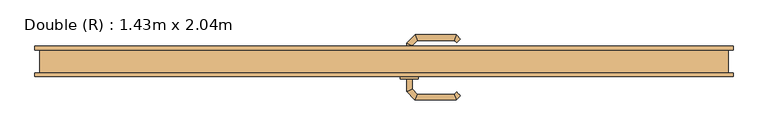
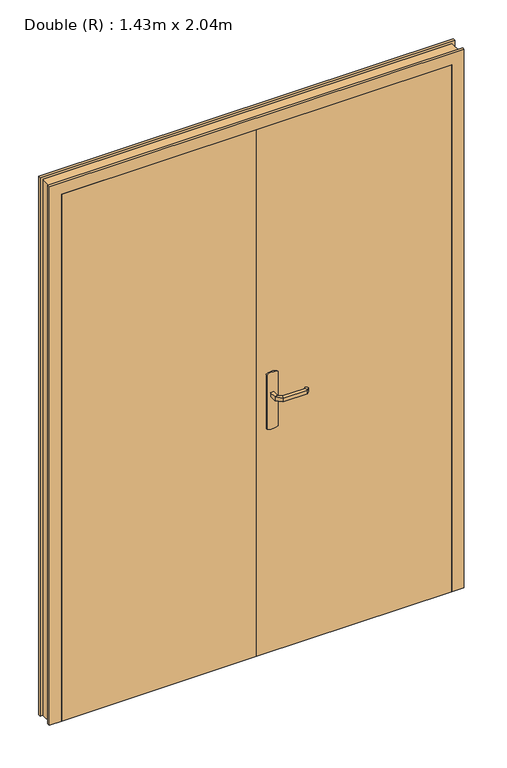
"""IFC4 building model written with IfcOpenShell, lengths in millimetres: door geometry, Double (R) : 1.43m x 2.04m."""

from ifc_helpers import new_model, si_unit, point, frame, frame_2d, origin, origin_with_axes, place, context, project, spatial, polyline, circle_curve, ellipse_curve, trimmed, segment, composite_curve, outline, extrude, faceted_brep, source, transform, mapped, element, save
from ifc_brep_helpers import plane_surface, cylinder_surface, advanced_brep


def double_r_1_43m_x_2_04m_cb4ce28d(model_context):
    return source(origin(), model_context, "Body", "SolidModel", [
        advanced_brep(
        [(61.0, 12.0, 993.0), (61.0, 12.0, 1007.0), (49.0, 12.0, 1007.0), (49.0, 12.0, 993.0), (61.0, 34.4852045, 993.0), (61.0, 34.4852045, 1007.0), (49.0, 39.4557673, 1007.0), (49.0, 39.4557673, 993.0), (72.4852814, 45.9704859, 993.0), (72.4852814, 45.9704859, 1007.0), (67.5147186, 57.9704859, 1007.0), (67.5147186, 57.9704859, 993.0), (152.5605023, 45.9704859, 993.0), (152.5605023, 45.9704859, 1007.0), (157.531065, 57.9704859, 1007.0), (157.531065, 57.9704859, 993.0), (157.8742108, 40.6567774, 993.0), (166.3594922, 49.1420588, 993.0), (166.3594922, 49.1420588, 1007.0), (157.8742108, 40.6567774, 1007.0)],
        [
            (0, 1),
            (1, 2, circle_curve(frame((55.0, 12.0, 986.9542278), z_axis=(0.0, -1.0, 0.0), x_axis=(-1.0, 0.0, 0.0)), 20.9244589)),
            (2, 3),
            (3, 0, circle_curve(frame((55.0, 12.0, 1013.0457722), z_axis=(0.0, -1.0, 0.0), x_axis=(-1.0, 0.0, 0.0)), 20.9244589)),
            (0, 4),
            (4, 5),
            (5, 1),
            (5, 6, ellipse_curve(frame((55.0, 36.9704859, 986.9542278), z_axis=(-0.38268343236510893, -0.9238795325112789, 0.0), x_axis=(0.9238795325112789, -0.3826834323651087, 0.0)), 22.6484711, 20.9244589)),
            (6, 2),
            (6, 7),
            (7, 3),
            (7, 4, ellipse_curve(frame((55.0, 36.9704859, 1013.0457722), z_axis=(-0.38268343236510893, -0.9238795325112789, 0.0), x_axis=(0.9238795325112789, -0.3826834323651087, 0.0)), 22.6484711, 20.9244589)),
            (4, 8),
            (8, 9),
            (9, 5),
            (9, 10, ellipse_curve(frame((70.0, 51.9704859, 986.9542278), z_axis=(-0.9238795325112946, -0.38268343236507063, 0.0), x_axis=(0.3826834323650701, -0.9238795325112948, 0.0)), 22.6484711, 20.9244589)),
            (10, 6),
            (10, 11),
            (11, 7),
            (11, 8, ellipse_curve(frame((70.0, 51.9704859, 1013.0457722), z_axis=(-0.9238795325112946, -0.38268343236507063, 0.0), x_axis=(0.3826834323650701, -0.9238795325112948, 0.0)), 22.6484711, 20.9244589)),
            (8, 12),
            (12, 13),
            (13, 9),
            (13, 14, ellipse_curve(frame((155.0457837, 51.9704859, 986.9542278), z_axis=(-0.9238795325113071, 0.38268343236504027, 0.0), x_axis=(-0.38268343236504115, -0.9238795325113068, 0.0)), 22.6484711, 20.9244589)),
            (14, 10),
            (14, 15),
            (15, 11),
            (15, 12, ellipse_curve(frame((155.0457837, 51.9704859, 1013.0457722), z_axis=(-0.9238795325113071, 0.38268343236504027, 0.0), x_axis=(-0.38268343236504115, -0.9238795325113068, 0.0)), 22.6484711, 20.9244589)),
            (16, 17, circle_curve(frame((162.1168515, 44.8994181, 1013.0457722), z_axis=(0.7071067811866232, -0.7071067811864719, 0.0), x_axis=(0.7071067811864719, 0.7071067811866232, 0.0)), 20.9244589)),
            (17, 18),
            (18, 19, circle_curve(frame((162.1168515, 44.8994181, 986.9542278), z_axis=(0.7071067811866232, -0.7071067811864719, 0.0), x_axis=(0.7071067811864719, 0.7071067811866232, 0.0)), 20.9244589)),
            (19, 16),
            (12, 16),
            (19, 13),
            (18, 14),
            (17, 15),
        ],
        [
            plane_surface(frame((45.7804555, 12.0, 1000.0), z_axis=(0.0, -1.0, 0.0), x_axis=(0.0, 0.0, 1.0))),
            plane_surface(frame((61.0, 12.0, 993.0), z_axis=(1.0, 0.0, 0.0), x_axis=(0.0, 1.0, 0.0))),
            cylinder_surface(frame((55.0, 12.0, 986.9542278), z_axis=(0.0, -1.0, 0.0), x_axis=(-1.0, 0.0, 0.0)), 20.9244589),
            plane_surface(frame((49.0, 12.0, 1007.0), z_axis=(-1.0, 0.0, 0.0), x_axis=(0.0, 1.0, 0.0))),
            cylinder_surface(frame((55.0, 12.0, 1013.0457722), z_axis=(0.0, -1.0, 0.0), x_axis=(-1.0, 0.0, 0.0)), 20.9244589),
            plane_surface(frame((61.0, 34.4852045, 993.0), z_axis=(0.707106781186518, -0.707106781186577, 0.0), x_axis=(0.707106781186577, 0.707106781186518, 0.0))),
            cylinder_surface(frame((55.0, 36.9704859, 986.9542278), z_axis=(-0.7071067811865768, -0.7071067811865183, 0.0), x_axis=(-0.7071067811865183, 0.7071067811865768, 0.0)), 20.9244589),
            plane_surface(frame((49.0, 39.4557673, 1007.0), z_axis=(-0.7071067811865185, 0.7071067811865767, 0.0), x_axis=(0.7071067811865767, 0.7071067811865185, 0.0))),
            cylinder_surface(frame((55.0, 36.9704859, 1013.0457722), z_axis=(-0.7071067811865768, -0.7071067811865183, 0.0), x_axis=(-0.7071067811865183, 0.7071067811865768, 0.0)), 20.9244589),
            plane_surface(frame((72.4852814, 45.9704859, 993.0), z_axis=(0.0, -1.0, 0.0), x_axis=(1.0, 0.0, 0.0))),
            cylinder_surface(frame((70.0, 51.9704859, 986.9542278), z_axis=(-1.0, 0.0, 0.0), x_axis=(0.0, 1.0, 0.0)), 20.9244589),
            plane_surface(frame((67.5147186, 57.9704859, 1007.0), z_axis=(0.0, 1.0, 0.0), x_axis=(1.0, 0.0, 0.0))),
            cylinder_surface(frame((70.0, 51.9704859, 1013.0457722), z_axis=(-1.0, 0.0, 0.0), x_axis=(0.0, 1.0, 0.0)), 20.9244589),
            plane_surface(frame((162.1168515, 44.8994181, 990.7804555), z_axis=(0.7071067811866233, -0.7071067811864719, 0.0), x_axis=(0.7071067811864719, 0.7071067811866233, 0.0))),
            plane_surface(frame((152.5605023, 45.9704859, 993.0), z_axis=(-0.707106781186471, -0.7071067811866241, 0.0), x_axis=(0.7071067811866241, -0.707106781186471, 0.0))),
            cylinder_surface(frame((155.0457837, 51.9704859, 986.9542278), z_axis=(-0.7071067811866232, 0.7071067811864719, 0.0), x_axis=(0.7071067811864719, 0.7071067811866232, 0.0)), 20.9244589),
            plane_surface(frame((157.531065, 57.9704859, 1007.0), z_axis=(0.7071067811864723, 0.7071067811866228, 0.0), x_axis=(0.7071067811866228, -0.7071067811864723, 0.0))),
            cylinder_surface(frame((155.0457837, 51.9704859, 1013.0457722), z_axis=(-0.7071067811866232, 0.7071067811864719, 0.0), x_axis=(0.7071067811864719, 0.7071067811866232, 0.0)), 20.9244589),
        ],
        [
            (0, [[1, 2, 3, 4]]),
            (1, [[-1, 5, 6, 7]]),
            (2, [[-2, -7, 8, 9]]),
            (3, [[-3, -9, 10, 11]]),
            (4, [[-4, -11, 12, -5]]),
            (5, [[-6, 13, 14, 15]]),
            (6, [[-8, -15, 16, 17]]),
            (7, [[-10, -17, 18, 19]]),
            (8, [[-12, -19, 20, -13]]),
            (9, [[-14, 21, 22, 23]]),
            (10, [[-16, -23, 24, 25]]),
            (11, [[-18, -25, 26, 27]]),
            (12, [[-20, -27, 28, -21]]),
            (13, [[29, 30, 31, 32]]),
            (14, [[-22, 33, -32, 34]]),
            (15, [[-24, -34, -31, 35]]),
            (16, [[-26, -35, -30, 36]]),
            (17, [[-28, -36, -29, -33]]),
        ],
    ),
        advanced_brep(
        [(49.0, -38.0, 1007.0), (61.0, -38.0, 1007.0), (61.0, -38.0, 993.0), (49.0, -38.0, 993.0), (49.0, -65.6509507, 1007.0), (61.0, -60.680388, 1007.0), (61.0, -60.680388, 993.0), (49.0, -65.6509507, 993.0), (67.37721, -84.0281607, 1007.0), (72.3477727, -72.0281607, 1007.0), (72.3477727, -72.0281607, 993.0), (67.37721, -84.0281607, 993.0), (157.503922, -84.0281607, 1007.0), (152.5333592, -72.0281607, 1007.0), (152.5333592, -72.0281607, 993.0), (157.503922, -84.0281607, 993.0), (166.3323491, -75.1997336, 1007.0), (166.3323491, -75.1997336, 993.0), (157.8470677, -66.7144522, 993.0), (157.8470677, -66.7144522, 1007.0)],
        [
            (0, 1, circle_curve(frame((55.0, -38.0, 986.9542278), z_axis=(0.0, 1.0, 0.0), x_axis=(1.0, 0.0, 0.0)), 20.9244589)),
            (1, 2),
            (2, 3, circle_curve(frame((55.0, -38.0, 1013.0457722), z_axis=(0.0, 1.0, 0.0), x_axis=(1.0, 0.0, 0.0)), 20.9244589)),
            (3, 0),
            (0, 4),
            (4, 5, ellipse_curve(frame((55.0, -63.1656693, 986.9542278), z_axis=(-0.3826834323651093, 0.9238795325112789, 0.0), x_axis=(0.9238795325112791, 0.38268343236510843, 0.0)), 22.6484711, 20.9244589)),
            (5, 1),
            (5, 6),
            (6, 2),
            (6, 7, ellipse_curve(frame((55.0, -63.1656693, 1013.0457722), z_axis=(-0.3826834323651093, 0.9238795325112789, 0.0), x_axis=(0.9238795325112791, 0.38268343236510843, 0.0)), 22.6484711, 20.9244589)),
            (7, 3),
            (7, 4),
            (4, 8),
            (8, 9, ellipse_curve(frame((69.8624914, -78.0281607, 986.9542278), z_axis=(-0.9238795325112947, 0.38268343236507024, 0.0), x_axis=(0.3826834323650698, 0.9238795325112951, 0.0)), 22.6484711, 20.9244589)),
            (9, 5),
            (9, 10),
            (10, 6),
            (10, 11, ellipse_curve(frame((69.8624914, -78.0281607, 1013.0457722), z_axis=(-0.9238795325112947, 0.38268343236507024, 0.0), x_axis=(0.3826834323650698, 0.9238795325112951, 0.0)), 22.6484711, 20.9244589)),
            (11, 7),
            (11, 8),
            (8, 12),
            (12, 13, ellipse_curve(frame((155.0186406, -78.0281607, 986.9542278), z_axis=(-0.9238795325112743, -0.3826834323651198, 0.0), x_axis=(-0.38268343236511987, 0.9238795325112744, 0.0)), 22.6484711, 20.9244589)),
            (13, 9),
            (13, 14),
            (14, 10),
            (14, 15, ellipse_curve(frame((155.0186406, -78.0281607, 1013.0457722), z_axis=(-0.9238795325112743, -0.3826834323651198, 0.0), x_axis=(-0.38268343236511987, 0.9238795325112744, 0.0)), 22.6484711, 20.9244589)),
            (15, 11),
            (15, 12),
            (16, 17),
            (17, 18, circle_curve(frame((162.0897084, -70.9570929, 1013.0457722), z_axis=(0.7071067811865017, 0.7071067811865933, 0.0), x_axis=(-0.7071067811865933, 0.7071067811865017, 0.0)), 20.9244589)),
            (18, 19),
            (19, 16, circle_curve(frame((162.0897084, -70.9570929, 986.9542278), z_axis=(0.7071067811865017, 0.7071067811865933, 0.0), x_axis=(-0.7071067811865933, 0.7071067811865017, 0.0)), 20.9244589)),
            (12, 16),
            (19, 13),
            (18, 14),
            (17, 15),
        ],
        [
            plane_surface(frame((45.7804555, -38.0, 1000.0), z_axis=(0.0, 1.0, 0.0), x_axis=(0.0, 0.0, -1.0))),
            cylinder_surface(frame((55.0, -38.0, 986.9542278), z_axis=(0.0, 1.0, 0.0), x_axis=(1.0, 0.0, 0.0)), 20.9244589),
            plane_surface(frame((61.0, -38.0, 1007.0), z_axis=(1.0, 0.0, 0.0), x_axis=(0.0, -1.0, 0.0))),
            cylinder_surface(frame((55.0, -38.0, 1013.0457722), z_axis=(0.0, 1.0, 0.0), x_axis=(1.0, 0.0, 0.0)), 20.9244589),
            plane_surface(frame((49.0, -38.0, 993.0), z_axis=(-1.0, 0.0, 0.0), x_axis=(0.0, -1.0, 0.0))),
            cylinder_surface(frame((55.0, -63.1656693, 986.9542278), z_axis=(-0.7071067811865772, 0.7071067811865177, 0.0), x_axis=(0.7071067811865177, 0.7071067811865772, 0.0)), 20.9244589),
            plane_surface(frame((61.0, -60.680388, 1007.0), z_axis=(0.7071067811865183, 0.7071067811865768, 0.0), x_axis=(0.7071067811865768, -0.7071067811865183, 0.0))),
            cylinder_surface(frame((55.0, -63.1656693, 1013.0457722), z_axis=(-0.7071067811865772, 0.7071067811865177, 0.0), x_axis=(0.7071067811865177, 0.7071067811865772, 0.0)), 20.9244589),
            plane_surface(frame((49.0, -65.6509507, 993.0), z_axis=(-0.707106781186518, -0.707106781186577, 0.0), x_axis=(0.707106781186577, -0.707106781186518, 0.0))),
            cylinder_surface(frame((69.8624914, -78.0281607, 986.9542278), z_axis=(-1.0, 0.0, 0.0), x_axis=(0.0, 1.0, 0.0)), 20.9244589),
            plane_surface(frame((72.3477727, -72.0281607, 1007.0), z_axis=(0.0, 1.0, 0.0), x_axis=(1.0, 0.0, 0.0))),
            cylinder_surface(frame((69.8624914, -78.0281607, 1013.0457722), z_axis=(-1.0, 0.0, 0.0), x_axis=(0.0, 1.0, 0.0)), 20.9244589),
            plane_surface(frame((67.37721, -84.0281607, 993.0), z_axis=(0.0, -1.0, 0.0), x_axis=(1.0, 0.0, 0.0))),
            plane_surface(frame((162.0897084, -70.9570929, 1009.2195445), z_axis=(0.7071067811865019, 0.7071067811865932, 0.0), x_axis=(0.7071067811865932, -0.7071067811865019, 0.0))),
            cylinder_surface(frame((155.0186406, -78.0281607, 986.9542278), z_axis=(-0.7071067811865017, -0.7071067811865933, 0.0), x_axis=(-0.7071067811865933, 0.7071067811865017, 0.0)), 20.9244589),
            plane_surface(frame((152.5333592, -72.0281607, 1007.0), z_axis=(-0.7071067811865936, 0.7071067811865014, 0.0), x_axis=(0.7071067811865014, 0.7071067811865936, 0.0))),
            cylinder_surface(frame((155.0186406, -78.0281607, 1013.0457722), z_axis=(-0.7071067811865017, -0.7071067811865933, 0.0), x_axis=(-0.7071067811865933, 0.7071067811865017, 0.0)), 20.9244589),
            plane_surface(frame((157.503922, -84.0281607, 993.0), z_axis=(0.707106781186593, -0.7071067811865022, 0.0), x_axis=(0.7071067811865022, 0.707106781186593, 0.0))),
        ],
        [
            (0, [[1, 2, 3, 4]]),
            (1, [[-1, 5, 6, 7]]),
            (2, [[-2, -7, 8, 9]]),
            (3, [[-3, -9, 10, 11]]),
            (4, [[-4, -11, 12, -5]]),
            (5, [[-6, 13, 14, 15]]),
            (6, [[-8, -15, 16, 17]]),
            (7, [[-10, -17, 18, 19]]),
            (8, [[-12, -19, 20, -13]]),
            (9, [[-14, 21, 22, 23]]),
            (10, [[-16, -23, 24, 25]]),
            (11, [[-18, -25, 26, 27]]),
            (12, [[-20, -27, 28, -21]]),
            (13, [[29, 30, 31, 32]]),
            (14, [[-22, 33, -32, 34]]),
            (15, [[-24, -34, -31, 35]]),
            (16, [[-26, -35, -30, 36]]),
            (17, [[-28, -36, -29, -33]]),
        ],
    ),
        extrude(outline(composite_curve([segment(trimmed(circle_curve(frame_2d((1045.3589838, 55.0)), 40.0), [point((1080.0, 75.0))], [point((1080.0, 35.0))], False, "CARTESIAN"), True, "CONTINUOUS"), segment(polyline([(1080.0, 35.0), (870.0, 35.0)]), True, "CONTINUOUS"), segment(trimmed(circle_curve(frame_2d((904.6410162, 55.0)), 40.0), [point((870.0, 35.0))], [point((870.0, 75.0))], False, "CARTESIAN"), True, "CONTINUOUS"), segment(polyline([(870.0, 75.0), (1080.0, 75.0)]), True, "CONTINUOUS")], self_intersect=False)), frame((0.0, 7.0, 0.0), z_axis=(0.0, 1.0, 0.0), x_axis=(0.0, 0.0, 1.0)), (0.0, 0.0, 1.0), 5.0),
        extrude(outline(composite_curve([segment(trimmed(circle_curve(frame_2d((904.6410162, 55.0)), 40.0), [point((870.0, 35.0))], [point((870.0, 75.0))], False, "CARTESIAN"), True, "CONTINUOUS"), segment(polyline([(870.0, 75.0), (1080.0, 75.0)]), True, "CONTINUOUS"), segment(trimmed(circle_curve(frame_2d((1045.3589838, 55.0)), 40.0), [point((1080.0, 75.0))], [point((1080.0, 35.0))], False, "CARTESIAN"), True, "CONTINUOUS"), segment(polyline([(1080.0, 35.0), (870.0, 35.0)]), True, "CONTINUOUS")], self_intersect=False)), frame((0.0, -38.0, 0.0), z_axis=(0.0, 1.0, 0.0), x_axis=(0.0, 0.0, 1.0)), (0.0, 0.0, 1.0), 5.0),
        faceted_brep([(-750.0, -25.0, 0.0), (-750.0, 25.0, 0.0), (-760.0, 25.0, 0.0), (-760.0, 33.0, 0.0), (-700.0, 33.0, 0.0), (-700.0, 7.0, 0.0), (-715.0, 7.0, 0.0), (-715.0, -33.0, 0.0), (-760.0, -33.0, 0.0), (-760.0, -25.0, 0.0), (-750.0, -25.0, 2075.0), (-750.0, 25.0, 2075.0), (750.0, 25.0, 2075.0), (750.0, 25.0, 0.0), (760.0, 25.0, 0.0), (760.0, 25.0, 2085.0), (-760.0, 25.0, 2085.0), (-760.0, 33.0, 2085.0), (760.0, 33.0, 2085.0), (760.0, 33.0, 0.0), (700.0, 33.0, 0.0), (700.0, 33.0, 2025.0), (-700.0, 33.0, 2025.0), (-700.0, 7.0, 2025.0), (700.0, 7.0, 2025.0), (700.0, 7.0, 0.0), (715.0, 7.0, 0.0), (715.0, 7.0, 2040.0), (-715.0, 7.0, 2040.0), (-715.0, -33.0, 2040.0), (715.0, -33.0, 2040.0), (715.0, -33.0, 0.0), (760.0, -33.0, 0.0), (760.0, -33.0, 2085.0), (-760.0, -33.0, 2085.0), (-760.0, -25.0, 2085.0), (760.0, -25.0, 2085.0), (760.0, -25.0, 0.0), (750.0, -25.0, 0.0), (750.0, -25.0, 2075.0)], [[[0, 1, 2, 3, 4, 5, 6, 7, 8, 9]], [[1, 0, 10, 11]], [[2, 1, 11, 12, 13, 14, 15, 16]], [[3, 2, 16, 17]], [[4, 3, 17, 18, 19, 20, 21, 22]], [[5, 4, 22, 23]], [[6, 5, 23, 24, 25, 26, 27, 28]], [[7, 6, 28, 29]], [[8, 7, 29, 30, 31, 32, 33, 34]], [[9, 8, 34, 35]], [[0, 9, 35, 36, 37, 38, 39, 10]], [[12, 39, 38, 13]], [[38, 37, 32, 31, 26, 25, 20, 19, 14, 13]], [[18, 15, 14, 19]], [[24, 21, 20, 25]], [[30, 27, 26, 31]], [[36, 33, 32, 37]], [[11, 10, 39, 12]], [[17, 16, 15, 18]], [[23, 22, 21, 24]], [[29, 28, 27, 30]], [[35, 34, 33, 36]]]),
        extrude(outline(polyline([(715.0, -33.0), (0.0, -33.0), (0.0, 7.0), (715.0, 7.0), (715.0, -33.0)])), origin_with_axes(), (0.0, 0.0, 1.0), 2040.0),
        extrude(outline(polyline([(0.0, -33.0), (-715.0, -33.0), (-715.0, 7.0), (0.0, 7.0), (0.0, -33.0)])), origin_with_axes(), (0.0, 0.0, 1.0), 2040.0),
    ])


if __name__ == "__main__":
    model = new_model("IFC4")
    model_context = context("Model", 3, world=origin())
    ifc_project = project(units=[si_unit("LENGTHUNIT", "METRE", prefix="MILLI")], contexts=[model_context])
    site = spatial("IfcSite", under=ifc_project)
    building = spatial("IfcBuilding", under=site)
    placement = place(None, origin())
    double_r_1_43m_x_2_04m_shape = double_r_1_43m_x_2_04m_cb4ce28d(model_context)
    element("IfcDoor", 1, ObjectType="Double (R) : 1.43m x 2.04m", at=placement, inside=building, context=model_context, shape_type="MappedRepresentation", body=[
        mapped(double_r_1_43m_x_2_04m_shape, transform((0.0, 0.0, 0.0), x_axis=(1.0, 0.0, 0.0), y_axis=(0.0, 1.0, 0.0), z_axis=(0.0, 0.0, 1.0))),
    ])
    save(model, "model.ifc")
